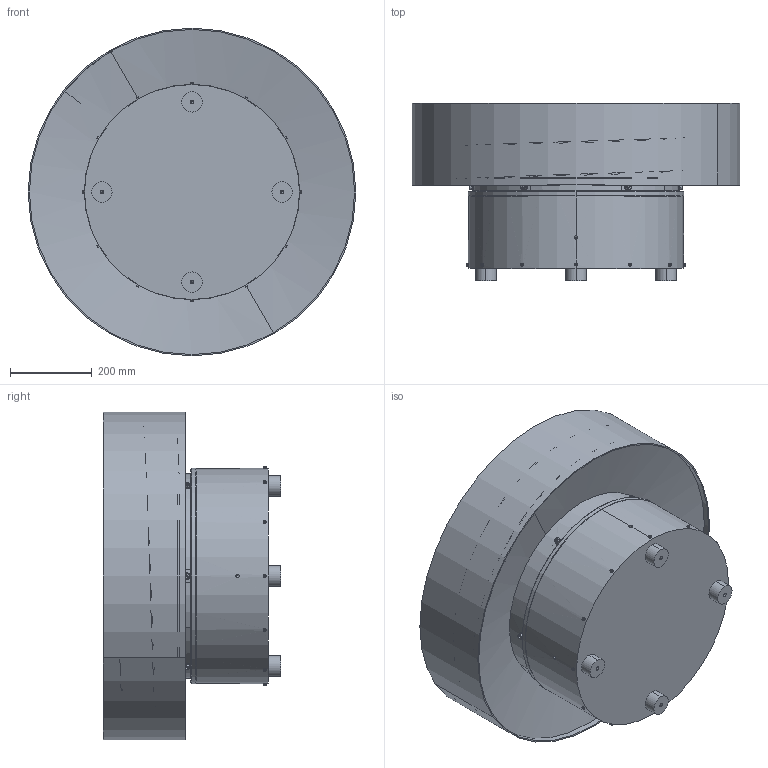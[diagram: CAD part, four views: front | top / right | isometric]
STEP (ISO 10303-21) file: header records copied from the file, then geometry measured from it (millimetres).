
FILE_DESCRIPTION (( 'STEP AP214' ), '1' );
FILE_NAME ('PC800_Q800x200_LEWY_WIBRAMET.STEP', '2020-10-27T09:49:13', ( '' ), ( '' ), 'SwSTEP 2.0', 'SolidWorks 2017', '' );
FILE_SCHEMA (( 'AUTOMOTIVE_DESIGN' ));
Length unit declared in the file: millimetre
Products named in the file (8): socket head cap screw_iso_ISO 4762 M8 x 16 - 16N; plain washer normal grade a_iso_Washer ISO 7089 - 8; PC800_Q800x200_LEWY_WIBRAMET; PC800_WIBRAMET; PW500-00.22[Podk³adka]; Q800x200L-80-60; socket head cap screw_iso_ISO 4762 M16 x 120 - 44N; PC800.26
Assembly tree (22 placements, depth 2):
  PC800_Q800x200_LEWY_WIBRAMET
    PC800_WIBRAMET
    Q800x200L-80-60
    PW500-00.22[Podk³adka]
    socket head cap screw_iso_ISO 4762 M16 x 120 - 44N
    PC800.26  x6
    plain washer normal grade a_iso_Washer ISO 7089 - 8  x6
    socket head cap screw_iso_ISO 4762 M8 x 16 - 16N  x6
Bounding box: 800 x 433.08 x 800 mm (x, y, z)
Volume: 45473802.8 mm3; surface area: 3553510.5 mm2
Topology: 24 solids, 25 shells, 639 faces, 1484 edges, 914 vertices
Faces by surface type: plane 293, cylinder 218, cone 72, torus 52, bspline 4
Entity records: 14181 total; most frequent: CARTESIAN_POINT 5014, DIRECTION 1816, ORIENTED_EDGE 1700, EDGE_CURVE 850, AXIS2_PLACEMENT_3D 668, VERTEX_POINT 544, LINE 480, VECTOR 480
